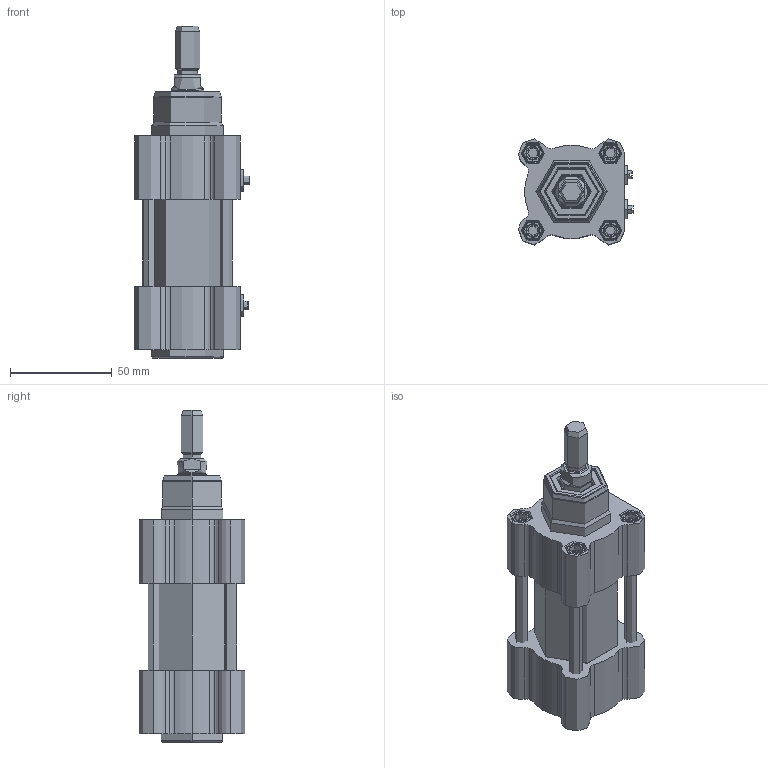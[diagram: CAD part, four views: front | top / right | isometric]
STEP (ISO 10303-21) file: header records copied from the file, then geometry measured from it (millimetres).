
FILE_DESCRIPTION(('STEP AP214'),'1');
FILE_NAME('81M40A0000.stp','2016-07-11T07:16:12',(' '),(' '),'Spatial InterOp 3D',' ',' ');
FILE_SCHEMA(('automotive_design'));
Length unit declared in the file: millimetre
Products named in the file (6): 81M40A0000; CORPO-000; TP; STELO-000; TA; TIRANTE-000
Assembly tree (8 placements, depth 2):
  81M40A0000
    CORPO-000
    TP
    STELO-000
    TA
    TIRANTE-000  x4
Bounding box: 56.39 x 51.88 x 163 mm (x, y, z)
Volume: 186083.3 mm3; surface area: 68573.5 mm2
Topology: 15 solids, 15 shells, 687 faces, 1546 edges, 939 vertices
Faces by surface type: cylinder 208, cone 195, plane 190, torus 84, revolution 10
Full cylindrical faces by diameter (mm): 3 x2, 8 x1, 28 x1
Entity records: 25308 total; most frequent: CARTESIAN_POINT 4529, DIRECTION 3524, ORIENTED_EDGE 3008, EDGE_CURVE 1504, AXIS2_PLACEMENT_3D 1482, VERTEX_POINT 915, CIRCLE 808, EDGE_LOOP 737
